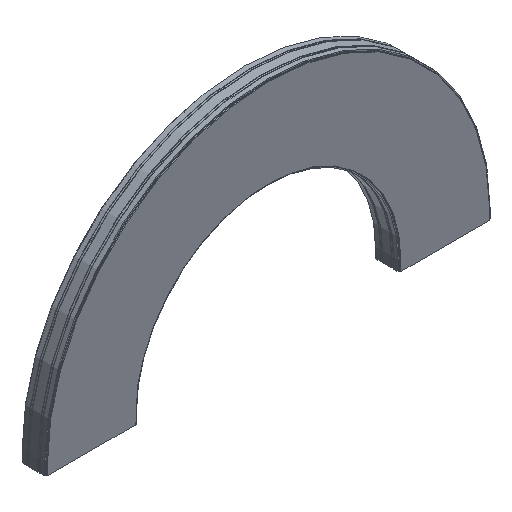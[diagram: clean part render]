
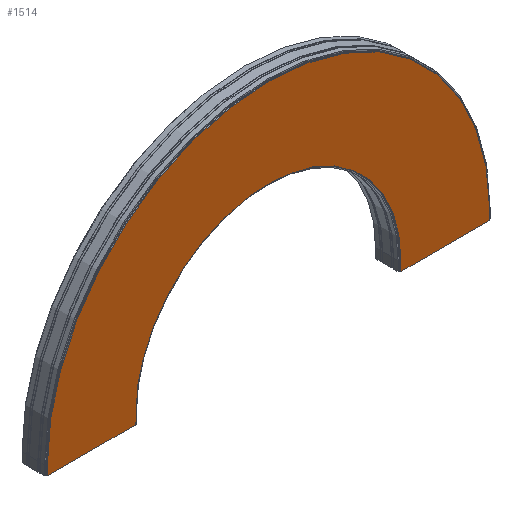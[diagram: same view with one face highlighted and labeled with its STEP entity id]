
A CAD part, isometric view. The second image highlights one B-rep face of the part: STEP entity #1514.
In plain terms, the highlighted planar face has unit normal (0, -1, 0).
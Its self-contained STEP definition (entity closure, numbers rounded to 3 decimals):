
#4 = ORIENTED_EDGE ( 'NONE', *, *, #474, .F. ) ;
#118 = ORIENTED_EDGE ( 'NONE', *, *, #195, .T. ) ;
#136 = DIRECTION ( 'NONE',  ( 0., 1., 0. ) ) ;
#142 = LINE ( 'NONE', #448, #1712 ) ;
#193 = VERTEX_POINT ( 'NONE', #253 ) ;
#195 = EDGE_CURVE ( 'NONE', #2323, #1304, #142, .T. ) ;
#204 = VERTEX_POINT ( 'NONE', #1799 ) ;
#212 = VECTOR ( 'NONE', #2480, 1000. ) ;
#245 = VECTOR ( 'NONE', #641, 1000. ) ;
#253 = CARTESIAN_POINT ( 'NONE',  ( 718.7, -68.25, 0. ) ) ;
#317 = CARTESIAN_POINT ( 'NONE',  ( -1201.3, -68.25, 0. ) ) ;
#371 = LINE ( 'NONE', #1003, #2059 ) ;
#438 = EDGE_CURVE ( 'NONE', #1118, #1127, #772, .T. ) ;
#448 = CARTESIAN_POINT ( 'NONE',  ( 1201.3, -68.25, -52.5 ) ) ;
#474 = EDGE_CURVE ( 'NONE', #2457, #635, #371, .T. ) ;
#476 = PLANE ( 'NONE',  #2237 ) ;
#486 = ORIENTED_EDGE ( 'NONE', *, *, #1195, .F. ) ;
#510 = CARTESIAN_POINT ( 'NONE',  ( 0., -68.25, 0. ) ) ;
#523 = ORIENTED_EDGE ( 'NONE', *, *, #961, .F. ) ;
#541 = ORIENTED_EDGE ( 'NONE', *, *, #1300, .F. ) ;
#579 = AXIS2_PLACEMENT_3D ( 'NONE', #1840, #894, #1651 ) ;
#635 = VERTEX_POINT ( 'NONE', #317 ) ;
#641 = DIRECTION ( 'NONE',  ( 0., 0., 1. ) ) ;
#671 = DIRECTION ( 'NONE',  ( 0., 1., 0. ) ) ;
#682 = VECTOR ( 'NONE', #1491, 1000. ) ;
#698 = EDGE_LOOP ( 'NONE', ( #835, #486, #541, #118, #523, #4, #1747, #1658 ) ) ;
#772 = LINE ( 'NONE', #1294, #245 ) ;
#795 = CIRCLE ( 'NONE', #579, 718.7 ) ;
#835 = ORIENTED_EDGE ( 'NONE', *, *, #889, .T. ) ;
#863 = DIRECTION ( 'NONE',  ( -1., 0., 0. ) ) ;
#864 = CARTESIAN_POINT ( 'NONE',  ( -1201.3, -68.25, -52.5 ) ) ;
#878 = DIRECTION ( 'NONE',  ( 0., 0., 1. ) ) ;
#889 = EDGE_CURVE ( 'NONE', #1127, #193, #795, .T. ) ;
#890 = LINE ( 'NONE', #896, #1966 ) ;
#894 = DIRECTION ( 'NONE',  ( 0., 1., 0. ) ) ;
#896 = CARTESIAN_POINT ( 'NONE',  ( 718.7, -68.25, -52.5 ) ) ;
#961 = EDGE_CURVE ( 'NONE', #635, #1304, #1159, .T. ) ;
#1003 = CARTESIAN_POINT ( 'NONE',  ( -1201.3, -68.25, -52.5 ) ) ;
#1107 = CARTESIAN_POINT ( 'NONE',  ( 1201.3, -68.25, 0. ) ) ;
#1118 = VERTEX_POINT ( 'NONE', #1805 ) ;
#1127 = VERTEX_POINT ( 'NONE', #1972 ) ;
#1153 = AXIS2_PLACEMENT_3D ( 'NONE', #510, #136, #1630 ) ;
#1159 = CIRCLE ( 'NONE', #1153, 1201.3 ) ;
#1195 = EDGE_CURVE ( 'NONE', #204, #193, #890, .T. ) ;
#1251 = LINE ( 'NONE', #1361, #212 ) ;
#1283 = CARTESIAN_POINT ( 'NONE',  ( 0., -68.25, -52.5 ) ) ;
#1294 = CARTESIAN_POINT ( 'NONE',  ( -718.7, -68.25, -52.5 ) ) ;
#1300 = EDGE_CURVE ( 'NONE', #2323, #204, #2347, .T. ) ;
#1304 = VERTEX_POINT ( 'NONE', #1107 ) ;
#1361 = CARTESIAN_POINT ( 'NONE',  ( 0., -68.25, -52.5 ) ) ;
#1491 = DIRECTION ( 'NONE',  ( -1., 0., 0. ) ) ;
#1505 = FACE_OUTER_BOUND ( 'NONE', #698, .T. ) ;
#1514 = ADVANCED_FACE ( 'NONE', ( #1505 ), #476, .F. ) ;
#1630 = DIRECTION ( 'NONE',  ( -1., 0., 0. ) ) ;
#1651 = DIRECTION ( 'NONE',  ( -1., 0., 0. ) ) ;
#1658 = ORIENTED_EDGE ( 'NONE', *, *, #438, .T. ) ;
#1712 = VECTOR ( 'NONE', #1791, 1000. ) ;
#1747 = ORIENTED_EDGE ( 'NONE', *, *, #1779, .F. ) ;
#1779 = EDGE_CURVE ( 'NONE', #1118, #2457, #1251, .T. ) ;
#1787 = CARTESIAN_POINT ( 'NONE',  ( 1201.3, -68.25, -52.5 ) ) ;
#1791 = DIRECTION ( 'NONE',  ( 0., 0., 1. ) ) ;
#1799 = CARTESIAN_POINT ( 'NONE',  ( 718.7, -68.25, -52.5 ) ) ;
#1805 = CARTESIAN_POINT ( 'NONE',  ( -718.7, -68.25, -52.5 ) ) ;
#1821 = CARTESIAN_POINT ( 'NONE',  ( -718.7, -68.25, 0. ) ) ;
#1840 = CARTESIAN_POINT ( 'NONE',  ( 0., -68.25, 0. ) ) ;
#1948 = DIRECTION ( 'NONE',  ( 0., 0., 1. ) ) ;
#1966 = VECTOR ( 'NONE', #878, 1000. ) ;
#1972 = CARTESIAN_POINT ( 'NONE',  ( -718.7, -68.25, 0. ) ) ;
#2059 = VECTOR ( 'NONE', #1948, 1000. ) ;
#2237 = AXIS2_PLACEMENT_3D ( 'NONE', #1821, #671, #863 ) ;
#2323 = VERTEX_POINT ( 'NONE', #1787 ) ;
#2347 = LINE ( 'NONE', #1283, #682 ) ;
#2457 = VERTEX_POINT ( 'NONE', #864 ) ;
#2480 = DIRECTION ( 'NONE',  ( -1., 0., 0. ) ) ;
